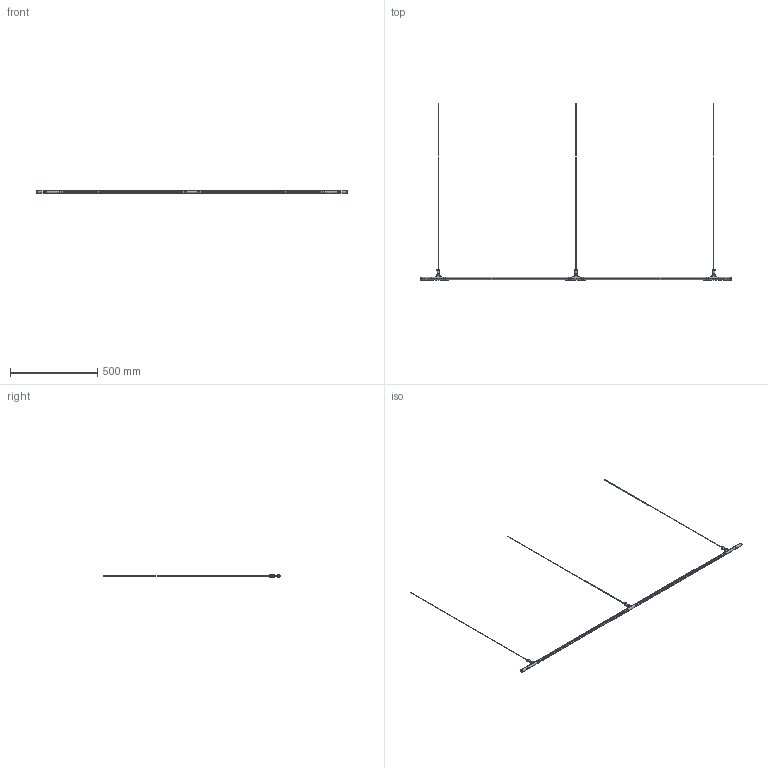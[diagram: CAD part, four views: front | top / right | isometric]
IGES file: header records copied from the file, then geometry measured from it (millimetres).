
Start section: SolidWorks IGES file using analytic representation for surfaces
Global section: file name: C:\Users\scott\Dropbox\Rakumba Industrial Design\PRODUCT\2 DEVELOPMENT\GALLERY\CAD\Gallery Lightweight CAD\Gallery - Double Pendant.IGS; native system: SolidWorks 2017; preprocessor: SolidWorks 2017; author: scott; date: 240403.175455; units: millimetre
Bounding box: 1777.6 x 1010 x 17.39 mm (x, y, z)
Surface area: 181998.5 mm2 (no closed solid volume)
Topology: 0 solids, 0 shells, 486 faces, 5752 edges, 5748 vertices
Faces by surface type: bspline 306, revolution 180
